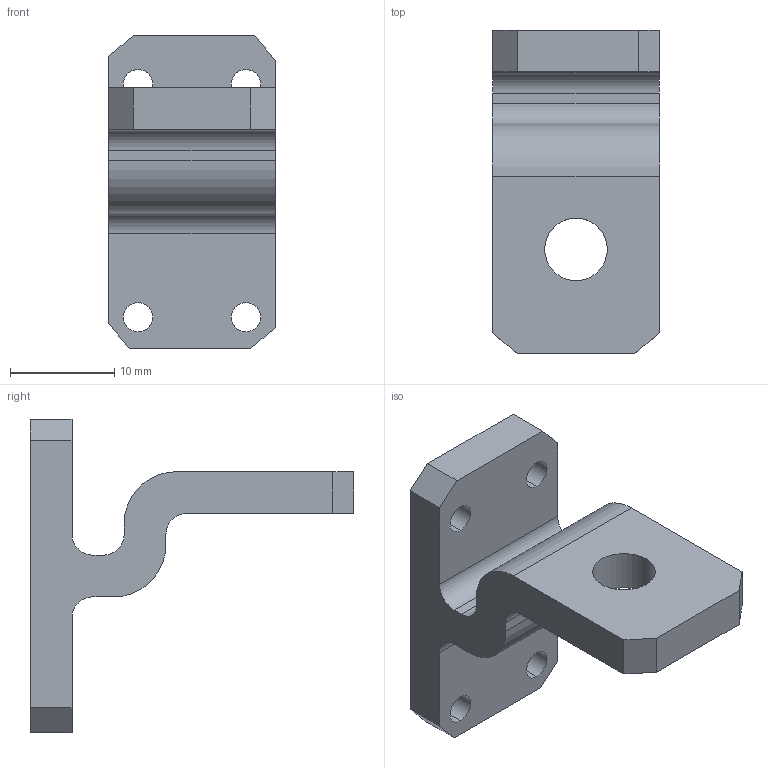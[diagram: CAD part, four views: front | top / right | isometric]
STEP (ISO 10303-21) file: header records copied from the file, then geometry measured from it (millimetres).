
FILE_DESCRIPTION (( 'STEP AP203' ), '1' );
FILE_NAME ('Z HOME SWITCH MOUNT.STEP', '2012-08-20T19:21:48', ( '' ), ( '' ), 'SwSTEP 2.0', 'SolidWorks 2012', '' );
FILE_SCHEMA (( 'CONFIG_CONTROL_DESIGN' ));
Length unit declared in the file: millimetre
Products named in the file (1): Z HOME SWITCH MOUNT
Bounding box: 16 x 31 x 30 mm (x, y, z)
Volume: 3774.4 mm3; surface area: 2641 mm2
Topology: 1 solids, 1 shells, 36 faces, 102 edges, 68 vertices
Faces by surface type: plane 20, cylinder 16
Entity records: 1275 total; most frequent: DIRECTION 208, CARTESIAN_POINT 207, ORIENTED_EDGE 204, EDGE_CURVE 102, LINE 70, VECTOR 70, AXIS2_PLACEMENT_3D 69, VERTEX_POINT 68
